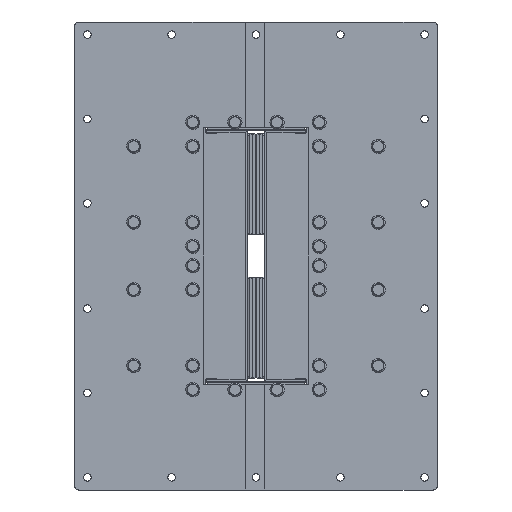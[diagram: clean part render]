
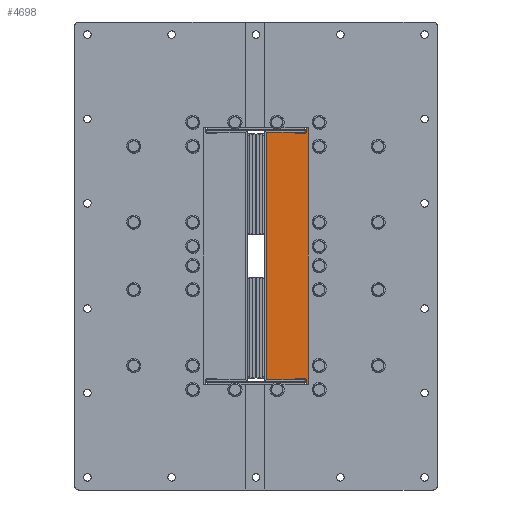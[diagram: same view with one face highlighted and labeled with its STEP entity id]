
A CAD part, left-side view. The second image highlights one B-rep face of the part: STEP entity #4698.
In plain terms, the highlighted planar face has unit normal (-1, 0, 0).
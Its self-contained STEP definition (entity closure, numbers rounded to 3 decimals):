
#3764=AXIS2_PLACEMENT_3D('Plane Axis2P3D',#3761,#3762,#3763) ;
#3898=AXIS2_PLACEMENT_3D('Circle Axis2P3D',#3896,#3897,$) ;
#3960=AXIS2_PLACEMENT_3D('Circle Axis2P3D',#3958,#3959,$) ;
#4236=AXIS2_PLACEMENT_3D('Circle Axis2P3D',#4234,#4235,$) ;
#4284=AXIS2_PLACEMENT_3D('Circle Axis2P3D',#4282,#4283,$) ;
#4592=AXIS2_PLACEMENT_3D('Circle Axis2P3D',#4590,#4591,$) ;
#4601=AXIS2_PLACEMENT_3D('Circle Axis2P3D',#4599,#4600,$) ;
#4610=AXIS2_PLACEMENT_3D('Circle Axis2P3D',#4608,#4609,$) ;
#4619=AXIS2_PLACEMENT_3D('Circle Axis2P3D',#4617,#4618,$) ;
#4628=AXIS2_PLACEMENT_3D('Circle Axis2P3D',#4626,#4627,$) ;
#4637=AXIS2_PLACEMENT_3D('Circle Axis2P3D',#4635,#4636,$) ;
#4646=AXIS2_PLACEMENT_3D('Circle Axis2P3D',#4644,#4645,$) ;
#4655=AXIS2_PLACEMENT_3D('Circle Axis2P3D',#4653,#4654,$) ;
#4664=AXIS2_PLACEMENT_3D('Circle Axis2P3D',#4662,#4663,$) ;
#4673=AXIS2_PLACEMENT_3D('Circle Axis2P3D',#4671,#4672,$) ;
#4682=AXIS2_PLACEMENT_3D('Circle Axis2P3D',#4680,#4681,$) ;
#4691=AXIS2_PLACEMENT_3D('Circle Axis2P3D',#4689,#4690,$) ;
#3761=CARTESIAN_POINT('Axis2P3D Location',(0.,0.,0.)) ;
#3802=CARTESIAN_POINT('Vertex',(0.,-60.,148.5)) ;
#3807=CARTESIAN_POINT('Line Origine',(0.,-60.,159.25)) ;
#3811=CARTESIAN_POINT('Vertex',(0.,-60.,170.)) ;
#3865=CARTESIAN_POINT('Line Origine',(0.,-69.,170.)) ;
#3869=CARTESIAN_POINT('Vertex',(0.,-78.,170.)) ;
#3896=CARTESIAN_POINT('Axis2P3D Location',(0.,-78.,165.)) ;
#3900=CARTESIAN_POINT('Vertex',(0.,-83.,165.)) ;
#3927=CARTESIAN_POINT('Line Origine',(0.,-83.,0.)) ;
#3931=CARTESIAN_POINT('Vertex',(0.,-83.,-165.)) ;
#3958=CARTESIAN_POINT('Axis2P3D Location',(0.,-78.,-165.)) ;
#3962=CARTESIAN_POINT('Vertex',(0.,-78.,-170.)) ;
#3989=CARTESIAN_POINT('Line Origine',(0.,-69.,-170.)) ;
#3993=CARTESIAN_POINT('Vertex',(0.,-60.,-170.)) ;
#4015=CARTESIAN_POINT('Line Origine',(0.,-60.,-159.25)) ;
#4019=CARTESIAN_POINT('Vertex',(0.,-60.,-148.5)) ;
#4059=CARTESIAN_POINT('Vertex',(0.,-57.5,147.)) ;
#4062=CARTESIAN_POINT('Line Origine',(0.,-57.5,147.75)) ;
#4066=CARTESIAN_POINT('Vertex',(0.,-57.5,148.5)) ;
#4097=CARTESIAN_POINT('Vertex',(0.,-12.62,147.)) ;
#4100=CARTESIAN_POINT('Line Origine',(0.,-35.06,147.)) ;
#4231=CARTESIAN_POINT('Vertex',(0.,-12.12,146.5)) ;
#4234=CARTESIAN_POINT('Axis2P3D Location',(0.,-12.62,146.5)) ;
#4255=CARTESIAN_POINT('Vertex',(0.,-12.12,-146.5)) ;
#4258=CARTESIAN_POINT('Line Origine',(0.,-12.12,0.)) ;
#4279=CARTESIAN_POINT('Vertex',(0.,-12.62,-147.)) ;
#4282=CARTESIAN_POINT('Axis2P3D Location',(0.,-12.62,-146.5)) ;
#4303=CARTESIAN_POINT('Vertex',(0.,-57.5,-147.)) ;
#4306=CARTESIAN_POINT('Line Origine',(0.,-35.06,-147.)) ;
#4322=CARTESIAN_POINT('Vertex',(0.,-57.5,-148.5)) ;
#4325=CARTESIAN_POINT('Line Origine',(0.,-57.5,-147.75)) ;
#4364=CARTESIAN_POINT('Line Origine',(0.,-58.75,-148.5)) ;
#4425=CARTESIAN_POINT('Line Origine',(0.,-58.75,148.5)) ;
#4590=CARTESIAN_POINT('Axis2P3D Location',(0.,-75.,130.)) ;
#4594=CARTESIAN_POINT('Vertex',(0.,-79.5,130.)) ;
#4596=CARTESIAN_POINT('Vertex',(0.,-70.5,130.)) ;
#4599=CARTESIAN_POINT('Axis2P3D Location',(0.,-75.,130.)) ;
#4608=CARTESIAN_POINT('Axis2P3D Location',(0.,-75.,40.)) ;
#4612=CARTESIAN_POINT('Vertex',(0.,-79.5,40.)) ;
#4614=CARTESIAN_POINT('Vertex',(0.,-70.5,40.)) ;
#4617=CARTESIAN_POINT('Axis2P3D Location',(0.,-75.,40.)) ;
#4626=CARTESIAN_POINT('Axis2P3D Location',(0.,-75.,-40.)) ;
#4630=CARTESIAN_POINT('Vertex',(0.,-79.5,-40.)) ;
#4632=CARTESIAN_POINT('Vertex',(0.,-70.5,-40.)) ;
#4635=CARTESIAN_POINT('Axis2P3D Location',(0.,-75.,-40.)) ;
#4644=CARTESIAN_POINT('Axis2P3D Location',(0.,-75.,-130.)) ;
#4648=CARTESIAN_POINT('Vertex',(0.,-79.5,-130.)) ;
#4650=CARTESIAN_POINT('Vertex',(0.,-70.5,-130.)) ;
#4653=CARTESIAN_POINT('Axis2P3D Location',(0.,-75.,-130.)) ;
#4662=CARTESIAN_POINT('Axis2P3D Location',(0.,-75.,158.5)) ;
#4666=CARTESIAN_POINT('Vertex',(0.,-79.5,158.5)) ;
#4668=CARTESIAN_POINT('Vertex',(0.,-70.5,158.5)) ;
#4671=CARTESIAN_POINT('Axis2P3D Location',(0.,-75.,158.5)) ;
#4680=CARTESIAN_POINT('Axis2P3D Location',(0.,-75.,-158.5)) ;
#4684=CARTESIAN_POINT('Vertex',(0.,-79.5,-158.5)) ;
#4686=CARTESIAN_POINT('Vertex',(0.,-70.5,-158.5)) ;
#4689=CARTESIAN_POINT('Axis2P3D Location',(0.,-75.,-158.5)) ;
#3762=DIRECTION('Axis2P3D Direction',(1.,0.,0.)) ;
#3763=DIRECTION('Axis2P3D XDirection',(0.,1.,0.)) ;
#3808=DIRECTION('Vector Direction',(0.,0.,-1.)) ;
#3866=DIRECTION('Vector Direction',(0.,-1.,0.)) ;
#3897=DIRECTION('Axis2P3D Direction',(1.,0.,0.)) ;
#3928=DIRECTION('Vector Direction',(0.,0.,1.)) ;
#3959=DIRECTION('Axis2P3D Direction',(1.,0.,0.)) ;
#3990=DIRECTION('Vector Direction',(0.,1.,0.)) ;
#4016=DIRECTION('Vector Direction',(0.,0.,-1.)) ;
#4063=DIRECTION('Vector Direction',(0.,0.,-1.)) ;
#4101=DIRECTION('Vector Direction',(0.,1.,0.)) ;
#4235=DIRECTION('Axis2P3D Direction',(1.,0.,0.)) ;
#4259=DIRECTION('Vector Direction',(0.,0.,1.)) ;
#4283=DIRECTION('Axis2P3D Direction',(1.,0.,0.)) ;
#4307=DIRECTION('Vector Direction',(0.,-1.,0.)) ;
#4326=DIRECTION('Vector Direction',(0.,0.,-1.)) ;
#4365=DIRECTION('Vector Direction',(0.,1.,0.)) ;
#4426=DIRECTION('Vector Direction',(0.,-1.,0.)) ;
#4591=DIRECTION('Axis2P3D Direction',(1.,0.,0.)) ;
#4600=DIRECTION('Axis2P3D Direction',(1.,0.,0.)) ;
#4609=DIRECTION('Axis2P3D Direction',(1.,0.,0.)) ;
#4618=DIRECTION('Axis2P3D Direction',(1.,0.,0.)) ;
#4627=DIRECTION('Axis2P3D Direction',(1.,0.,0.)) ;
#4636=DIRECTION('Axis2P3D Direction',(1.,0.,0.)) ;
#4645=DIRECTION('Axis2P3D Direction',(1.,0.,0.)) ;
#4654=DIRECTION('Axis2P3D Direction',(1.,0.,0.)) ;
#4663=DIRECTION('Axis2P3D Direction',(1.,0.,0.)) ;
#4672=DIRECTION('Axis2P3D Direction',(1.,0.,0.)) ;
#4681=DIRECTION('Axis2P3D Direction',(1.,0.,0.)) ;
#4690=DIRECTION('Axis2P3D Direction',(1.,0.,0.)) ;
#3809=VECTOR('Line Direction',#3808,1.) ;
#3867=VECTOR('Line Direction',#3866,1.) ;
#3929=VECTOR('Line Direction',#3928,1.) ;
#3991=VECTOR('Line Direction',#3990,1.) ;
#4017=VECTOR('Line Direction',#4016,1.) ;
#4064=VECTOR('Line Direction',#4063,1.) ;
#4102=VECTOR('Line Direction',#4101,1.) ;
#4260=VECTOR('Line Direction',#4259,1.) ;
#4308=VECTOR('Line Direction',#4307,1.) ;
#4327=VECTOR('Line Direction',#4326,1.) ;
#4366=VECTOR('Line Direction',#4365,1.) ;
#4427=VECTOR('Line Direction',#4426,1.) ;
#4573=ORIENTED_EDGE('',*,*,#4068,.T.) ;
#4574=ORIENTED_EDGE('',*,*,#4104,.T.) ;
#4575=ORIENTED_EDGE('',*,*,#4238,.T.) ;
#4576=ORIENTED_EDGE('',*,*,#4262,.T.) ;
#4577=ORIENTED_EDGE('',*,*,#4286,.T.) ;
#4578=ORIENTED_EDGE('',*,*,#4310,.T.) ;
#4579=ORIENTED_EDGE('',*,*,#4329,.T.) ;
#4580=ORIENTED_EDGE('',*,*,#4368,.F.) ;
#4581=ORIENTED_EDGE('',*,*,#4021,.F.) ;
#4582=ORIENTED_EDGE('',*,*,#3995,.F.) ;
#4583=ORIENTED_EDGE('',*,*,#3964,.F.) ;
#4584=ORIENTED_EDGE('',*,*,#3933,.F.) ;
#4585=ORIENTED_EDGE('',*,*,#3902,.F.) ;
#4586=ORIENTED_EDGE('',*,*,#3871,.F.) ;
#4587=ORIENTED_EDGE('',*,*,#3813,.F.) ;
#4588=ORIENTED_EDGE('',*,*,#4429,.F.) ;
#4605=ORIENTED_EDGE('',*,*,#4598,.T.) ;
#4606=ORIENTED_EDGE('',*,*,#4603,.T.) ;
#4623=ORIENTED_EDGE('',*,*,#4616,.T.) ;
#4624=ORIENTED_EDGE('',*,*,#4621,.T.) ;
#4641=ORIENTED_EDGE('',*,*,#4634,.T.) ;
#4642=ORIENTED_EDGE('',*,*,#4639,.T.) ;
#4659=ORIENTED_EDGE('',*,*,#4652,.T.) ;
#4660=ORIENTED_EDGE('',*,*,#4657,.T.) ;
#4677=ORIENTED_EDGE('',*,*,#4670,.T.) ;
#4678=ORIENTED_EDGE('',*,*,#4675,.T.) ;
#4695=ORIENTED_EDGE('',*,*,#4688,.T.) ;
#4696=ORIENTED_EDGE('',*,*,#4693,.T.) ;
#4607=FACE_BOUND('',#4604,.T.) ;
#4625=FACE_BOUND('',#4622,.T.) ;
#4643=FACE_BOUND('',#4640,.T.) ;
#4661=FACE_BOUND('',#4658,.T.) ;
#4679=FACE_BOUND('',#4676,.T.) ;
#4697=FACE_BOUND('',#4694,.T.) ;
#4698=ADVANCED_FACE('Laterale(L3)',(#4589,#4607,#4625,#4643,#4661,#4679,#4697),#3765,.F.) ;
#3899=CIRCLE('generated circle',#3898,5.) ;
#3961=CIRCLE('generated circle',#3960,5.) ;
#4237=CIRCLE('generated circle',#4236,0.5) ;
#4285=CIRCLE('generated circle',#4284,0.5) ;
#4593=CIRCLE('generated circle',#4592,4.5) ;
#4602=CIRCLE('generated circle',#4601,4.5) ;
#4611=CIRCLE('generated circle',#4610,4.5) ;
#4620=CIRCLE('generated circle',#4619,4.5) ;
#4629=CIRCLE('generated circle',#4628,4.5) ;
#4638=CIRCLE('generated circle',#4637,4.5) ;
#4647=CIRCLE('generated circle',#4646,4.5) ;
#4656=CIRCLE('generated circle',#4655,4.5) ;
#4665=CIRCLE('generated circle',#4664,4.5) ;
#4674=CIRCLE('generated circle',#4673,4.5) ;
#4683=CIRCLE('generated circle',#4682,4.5) ;
#4692=CIRCLE('generated circle',#4691,4.5) ;
#3813=EDGE_CURVE('',#3803,#3812,#3810,.F.) ;
#3871=EDGE_CURVE('',#3812,#3870,#3868,.T.) ;
#3902=EDGE_CURVE('',#3870,#3901,#3899,.T.) ;
#3933=EDGE_CURVE('',#3901,#3932,#3930,.F.) ;
#3964=EDGE_CURVE('',#3932,#3963,#3961,.T.) ;
#3995=EDGE_CURVE('',#3963,#3994,#3992,.T.) ;
#4021=EDGE_CURVE('',#3994,#4020,#4018,.F.) ;
#4068=EDGE_CURVE('',#4067,#4060,#4065,.T.) ;
#4104=EDGE_CURVE('',#4060,#4098,#4103,.T.) ;
#4238=EDGE_CURVE('',#4098,#4232,#4237,.F.) ;
#4262=EDGE_CURVE('',#4232,#4256,#4261,.F.) ;
#4286=EDGE_CURVE('',#4256,#4280,#4285,.F.) ;
#4310=EDGE_CURVE('',#4280,#4304,#4309,.T.) ;
#4329=EDGE_CURVE('',#4304,#4323,#4328,.T.) ;
#4368=EDGE_CURVE('',#4020,#4323,#4367,.T.) ;
#4429=EDGE_CURVE('',#4067,#3803,#4428,.T.) ;
#4598=EDGE_CURVE('',#4595,#4597,#4593,.T.) ;
#4603=EDGE_CURVE('',#4597,#4595,#4602,.T.) ;
#4616=EDGE_CURVE('',#4613,#4615,#4611,.T.) ;
#4621=EDGE_CURVE('',#4615,#4613,#4620,.T.) ;
#4634=EDGE_CURVE('',#4631,#4633,#4629,.T.) ;
#4639=EDGE_CURVE('',#4633,#4631,#4638,.T.) ;
#4652=EDGE_CURVE('',#4649,#4651,#4647,.T.) ;
#4657=EDGE_CURVE('',#4651,#4649,#4656,.T.) ;
#4670=EDGE_CURVE('',#4667,#4669,#4665,.T.) ;
#4675=EDGE_CURVE('',#4669,#4667,#4674,.T.) ;
#4688=EDGE_CURVE('',#4685,#4687,#4683,.T.) ;
#4693=EDGE_CURVE('',#4687,#4685,#4692,.T.) ;
#4572=EDGE_LOOP('',(#4573,#4574,#4575,#4576,#4577,#4578,#4579,#4580,#4581,#4582,#4583,#4584,#4585,#4586,#4587,#4588)) ;
#4604=EDGE_LOOP('',(#4605,#4606)) ;
#4622=EDGE_LOOP('',(#4623,#4624)) ;
#4640=EDGE_LOOP('',(#4641,#4642)) ;
#4658=EDGE_LOOP('',(#4659,#4660)) ;
#4676=EDGE_LOOP('',(#4677,#4678)) ;
#4694=EDGE_LOOP('',(#4695,#4696)) ;
#4589=FACE_OUTER_BOUND('',#4572,.T.) ;
#3810=LINE('Line',#3807,#3809) ;
#3868=LINE('Line',#3865,#3867) ;
#3930=LINE('Line',#3927,#3929) ;
#3992=LINE('Line',#3989,#3991) ;
#4018=LINE('Line',#4015,#4017) ;
#4065=LINE('Line',#4062,#4064) ;
#4103=LINE('Line',#4100,#4102) ;
#4261=LINE('Line',#4258,#4260) ;
#4309=LINE('Line',#4306,#4308) ;
#4328=LINE('Line',#4325,#4327) ;
#4367=LINE('Line',#4364,#4366) ;
#4428=LINE('Line',#4425,#4427) ;
#3765=PLANE('',#3764) ;
#3803=VERTEX_POINT('',#3802) ;
#3812=VERTEX_POINT('',#3811) ;
#3870=VERTEX_POINT('',#3869) ;
#3901=VERTEX_POINT('',#3900) ;
#3932=VERTEX_POINT('',#3931) ;
#3963=VERTEX_POINT('',#3962) ;
#3994=VERTEX_POINT('',#3993) ;
#4020=VERTEX_POINT('',#4019) ;
#4060=VERTEX_POINT('',#4059) ;
#4067=VERTEX_POINT('',#4066) ;
#4098=VERTEX_POINT('',#4097) ;
#4232=VERTEX_POINT('',#4231) ;
#4256=VERTEX_POINT('',#4255) ;
#4280=VERTEX_POINT('',#4279) ;
#4304=VERTEX_POINT('',#4303) ;
#4323=VERTEX_POINT('',#4322) ;
#4595=VERTEX_POINT('',#4594) ;
#4597=VERTEX_POINT('',#4596) ;
#4613=VERTEX_POINT('',#4612) ;
#4615=VERTEX_POINT('',#4614) ;
#4631=VERTEX_POINT('',#4630) ;
#4633=VERTEX_POINT('',#4632) ;
#4649=VERTEX_POINT('',#4648) ;
#4651=VERTEX_POINT('',#4650) ;
#4667=VERTEX_POINT('',#4666) ;
#4669=VERTEX_POINT('',#4668) ;
#4685=VERTEX_POINT('',#4684) ;
#4687=VERTEX_POINT('',#4686) ;
